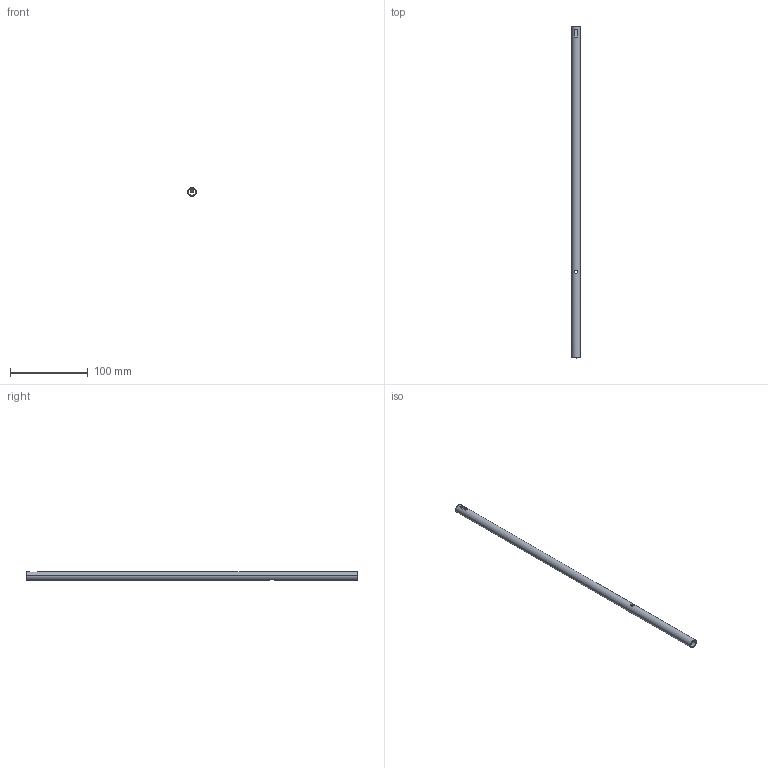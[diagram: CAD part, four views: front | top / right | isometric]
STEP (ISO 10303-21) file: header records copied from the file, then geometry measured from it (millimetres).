
FILE_DESCRIPTION (( 'STEP AP214' ), '1' );
FILE_NAME ('Relingsrohr-Frontstütze_P710701300_450.step', '2010-09-07T12:59:30', ( 'grass' ), ( '' ), 'SwSTEP 2.0', 'SolidWorks 2010', '' );
FILE_SCHEMA (( 'AUTOMOTIVE_DESIGN' ));
Length unit declared in the file: millimetre
Products named in the file (1): Relingsrohr-Frontstütze_P710701300_450
Bounding box: 11 x 426 x 11 mm (x, y, z)
Volume: 13320.5 mm3; surface area: 26790.4 mm2
Topology: 1 solids, 1 shells, 18 faces, 46 edges, 30 vertices
Faces by surface type: plane 10, cylinder 8
Entity records: 850 total; most frequent: CARTESIAN_POINT 351, ORIENTED_EDGE 92, DIRECTION 84, EDGE_CURVE 46, VERTEX_POINT 30, AXIS2_PLACEMENT_3D 29, EDGE_LOOP 26, LINE 26
